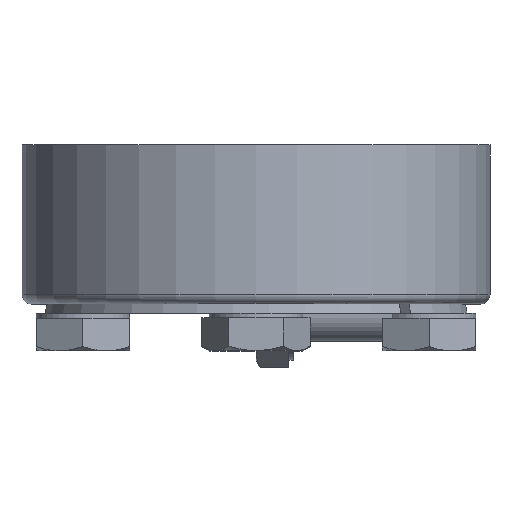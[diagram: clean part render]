
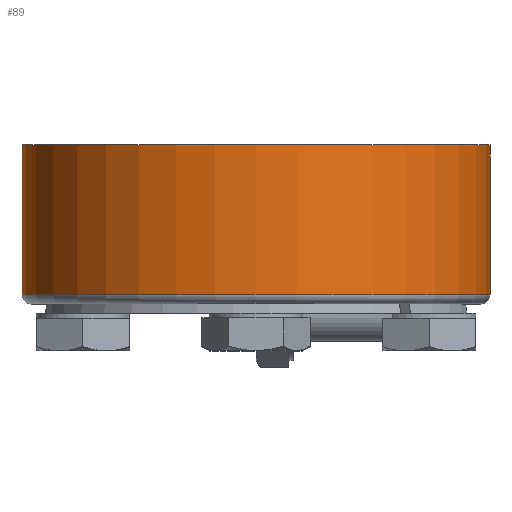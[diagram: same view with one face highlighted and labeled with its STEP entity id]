
A CAD part, top view. The second image highlights one B-rep face of the part: STEP entity #89.
In plain terms, the highlighted cylindrical face has radius 25 mm (diameter 50 mm), a full revolution.
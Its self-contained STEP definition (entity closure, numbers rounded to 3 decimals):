
#89 = ADVANCED_FACE( '', ( #182, #183 ), #184, .T. );
#182 = FACE_OUTER_BOUND( '', #277, .T. );
#183 = FACE_OUTER_BOUND( '', #278, .T. );
#184 = CYLINDRICAL_SURFACE( '', #279, 25. );
#277 = EDGE_LOOP( '', ( #456 ) );
#278 = EDGE_LOOP( '', ( #457 ) );
#279 = AXIS2_PLACEMENT_3D( '', #458, #459, #460 );
#456 = ORIENTED_EDGE( '', *, *, #609, .T. );
#457 = ORIENTED_EDGE( '', *, *, #556, .T. );
#458 = CARTESIAN_POINT( '', ( 0., -60., 0. ) );
#459 = DIRECTION( '', ( 0., 1., 0. ) );
#460 = DIRECTION( '', ( 0., 0., -1. ) );
#556 = EDGE_CURVE( '', #676, #676, #677, .T. );
#609 = EDGE_CURVE( '', #759, #759, #760, .F. );
#676 = VERTEX_POINT( '', #941 );
#677 = CIRCLE( '', #942, 25. );
#759 = VERTEX_POINT( '', #1060 );
#760 = CIRCLE( '', #1061, 25. );
#941 = CARTESIAN_POINT( '', ( 0., 18., -25. ) );
#942 = AXIS2_PLACEMENT_3D( '', #1123, #1124, #1125 );
#1060 = CARTESIAN_POINT( '', ( 0., 2., -25. ) );
#1061 = AXIS2_PLACEMENT_3D( '', #1186, #1187, #1188 );
#1123 = CARTESIAN_POINT( '', ( 0., 18., 0. ) );
#1124 = DIRECTION( '', ( 0., -1., 0. ) );
#1125 = DIRECTION( '', ( 0., 0., -1. ) );
#1186 = CARTESIAN_POINT( '', ( 0., 2., 0. ) );
#1187 = DIRECTION( '', ( 0., -1., 0. ) );
#1188 = DIRECTION( '', ( 0., 0., -1. ) );
